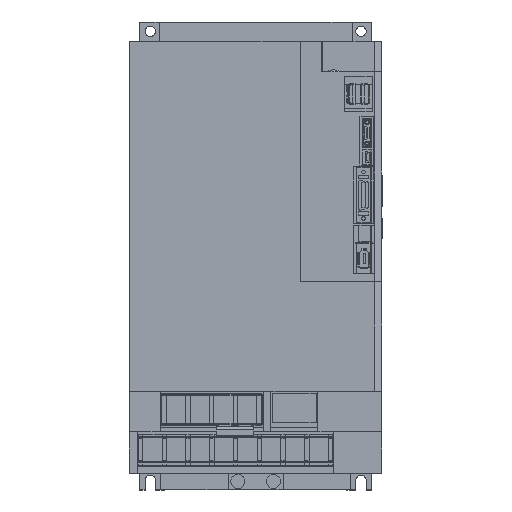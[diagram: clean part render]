
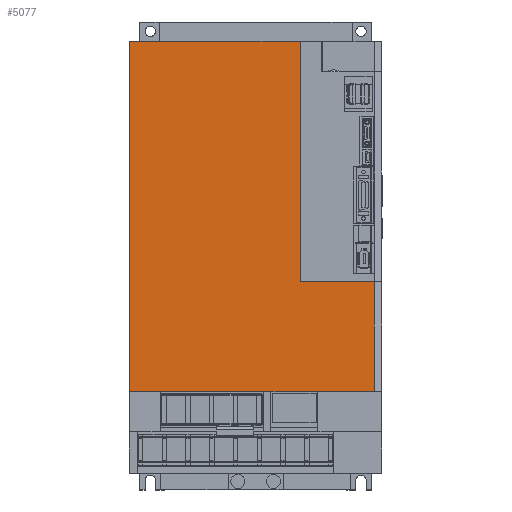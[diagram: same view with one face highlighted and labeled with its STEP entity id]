
A CAD part, top view. The second image highlights one B-rep face of the part: STEP entity #5077.
In plain terms, the highlighted planar face has unit normal (0, 0, 1).
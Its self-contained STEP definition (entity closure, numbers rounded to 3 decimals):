
#4803 = EDGE_CURVE ( 'NONE', #4804, #4805, #26945, .T. ) ;
#4804 = VERTEX_POINT ( 'NONE', #26941 ) ;
#4805 = VERTEX_POINT ( 'NONE', #26940 ) ;
#5077 = ADVANCED_FACE ( 'NONE', ( #27420 ), #27419, .T. ) ;
#5078 = EDGE_LOOP ( 'NONE', ( #5079, #5083, #5086, #5088, #5090, #5150 ) ) ;
#5079 = ORIENTED_EDGE ( 'NONE', *, *, #5080, .F. ) ;
#5080 = EDGE_CURVE ( 'NONE', #5081, #5082, #27414, .T. ) ;
#5081 = VERTEX_POINT ( 'NONE', #27410 ) ;
#5082 = VERTEX_POINT ( 'NONE', #27409 ) ;
#5083 = ORIENTED_EDGE ( 'NONE', *, *, #5084, .F. ) ;
#5084 = EDGE_CURVE ( 'NONE', #5085, #5081, #27408, .T. ) ;
#5085 = VERTEX_POINT ( 'NONE', #27404 ) ;
#5086 = ORIENTED_EDGE ( 'NONE', *, *, #5087, .T. ) ;
#5087 = EDGE_CURVE ( 'NONE', #5085, #4804, #27403, .T. ) ;
#5088 = ORIENTED_EDGE ( 'NONE', *, *, #4803, .T. ) ;
#5090 = ORIENTED_EDGE ( 'NONE', *, *, #5091, .T. ) ;
#5091 = EDGE_CURVE ( 'NONE', #4805, #61726, #27397, .T. ) ;
#5150 = ORIENTED_EDGE ( 'NONE', *, *, #5151, .T. ) ;
#5151 = EDGE_CURVE ( 'NONE', #61726, #5082, #27507, .T. ) ;
#26940 = CARTESIAN_POINT ( 'NONE',  ( -14., -7., 210. ) ) ;
#26941 = CARTESIAN_POINT ( 'NONE',  ( 101., -7., 210. ) ) ;
#26942 = DIRECTION ( 'NONE',  ( -1., 0., 0. ) ) ;
#26943 = VECTOR ( 'NONE', #26942, 1000. ) ;
#26944 = CARTESIAN_POINT ( 'NONE',  ( 156., -7., 210. ) ) ;
#26945 = LINE ( 'NONE', #26944, #26943 ) ;
#27394 = VECTOR ( 'NONE', #27460, 1000. ) ;
#27396 = CARTESIAN_POINT ( 'NONE',  ( -14., -7., 210. ) ) ;
#27397 = LINE ( 'NONE', #27396, #27394 ) ;
#27399 = DIRECTION ( 'NONE',  ( 0., 1., 0. ) ) ;
#27400 = VECTOR ( 'NONE', #27399, 1000. ) ;
#27402 = CARTESIAN_POINT ( 'NONE',  ( 101., -8., 210. ) ) ;
#27403 = LINE ( 'NONE', #27402, #27400 ) ;
#27404 = CARTESIAN_POINT ( 'NONE',  ( 101., -169., 210. ) ) ;
#27405 = DIRECTION ( 'NONE',  ( 1., 0., 0. ) ) ;
#27406 = VECTOR ( 'NONE', #27405, 1000. ) ;
#27407 = CARTESIAN_POINT ( 'NONE',  ( 155., -169., 210. ) ) ;
#27408 = LINE ( 'NONE', #27407, #27406 ) ;
#27409 = CARTESIAN_POINT ( 'NONE',  ( 151., -243., 210. ) ) ;
#27410 = CARTESIAN_POINT ( 'NONE',  ( 151., -169., 210. ) ) ;
#27411 = DIRECTION ( 'NONE',  ( 0., -1., 0. ) ) ;
#27412 = VECTOR ( 'NONE', #27411, 1000. ) ;
#27413 = CARTESIAN_POINT ( 'NONE',  ( 151., -163.415, 210. ) ) ;
#27414 = LINE ( 'NONE', #27413, #27412 ) ;
#27415 = DIRECTION ( 'NONE',  ( 1., 0., 0. ) ) ;
#27416 = DIRECTION ( 'NONE',  ( 0., 0., 1. ) ) ;
#27417 = CARTESIAN_POINT ( 'NONE',  ( 0., 0., 210. ) ) ;
#27418 = AXIS2_PLACEMENT_3D ( 'NONE', #27417, #27416, #27415 ) ;
#27419 = PLANE ( 'NONE',  #27418 ) ;
#27420 = FACE_OUTER_BOUND ( 'NONE', #5078, .T. ) ;
#27460 = DIRECTION ( 'NONE',  ( 0., -1., 0. ) ) ;
#27504 = DIRECTION ( 'NONE',  ( 1., 0., 0. ) ) ;
#27505 = VECTOR ( 'NONE', #27504, 1000. ) ;
#27506 = CARTESIAN_POINT ( 'NONE',  ( -14., -243., 210. ) ) ;
#27507 = LINE ( 'NONE', #27506, #27505 ) ;
#55313 = CARTESIAN_POINT ( 'NONE',  ( -14., -243., 210. ) ) ;
#61726 = VERTEX_POINT ( 'NONE', #55313 ) ;
